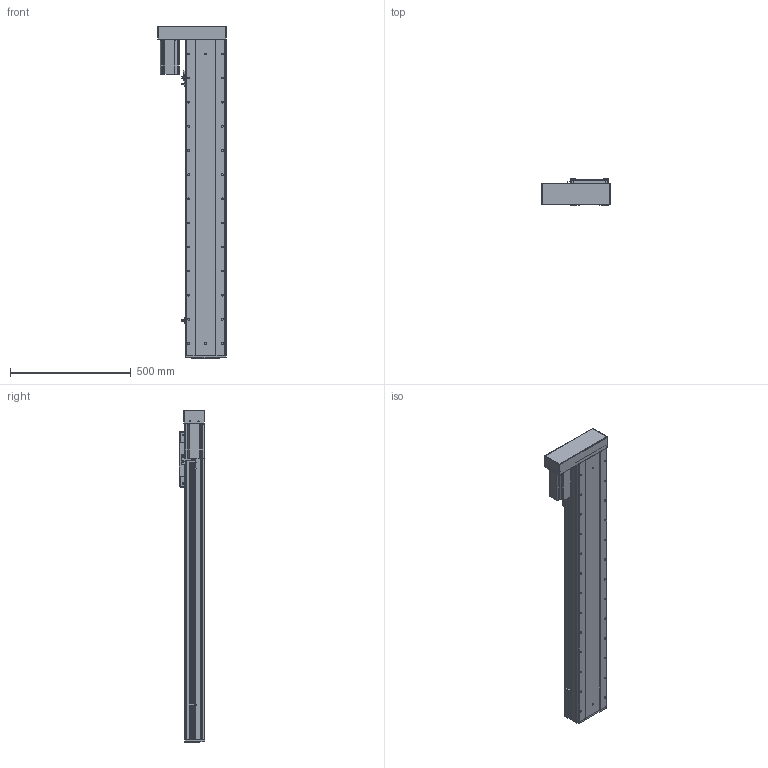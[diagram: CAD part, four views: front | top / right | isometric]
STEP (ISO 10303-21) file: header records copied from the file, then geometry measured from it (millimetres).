
FILE_DESCRIPTION (( 'STEP AP203' ), '1' );
FILE_NAME ('RY170F-L2020-300-LK.SLDASM_1000.step', '2021-03-02T09:00:54', ( '盈信电脑' ), ( '东莞市道滘镇水果街19号' ), 'SwSTEP 2.0', 'SolidWorks 2012', '' );
FILE_SCHEMA (( 'CONFIG_CONTROL_DESIGN' ));
Length unit declared in the file: millimetre
Products named in the file (20): RY170F-L2020-300-LK.SLDASM_1000; RY170F-蛌殏萇儂假蚾啣; 怢湛750W萇儂ㄗ80遺ㄘ; RY170F酘衵殏萇儂欶; RY170F-酘衵殏萇儂釱; 侐源滅袉蝶; 滅袉蝶18-24; RY170F-詩湍揤踡輸; RY170F-揤踡謫假蚾粣; 覜茼ん672; RY170F俋离覜茼え; RY170F-綴裔啣; RY100F-詩湍揤踡謫; 滅袉蝶18-10; RY170F-300眻蟀倰第奻裔啣-LK_1000; RY170F-丝杆铝滑块连接板; RY170F-300眻蟀倰第菁釱-LK_1000; RY170F-300眻蟀祥凄詩湍-LK_1000; RY170F-佪裝臏賑輸20蹟譫; RY170F-滅鳥奻裔
Assembly tree (24 placements, depth 2):
  RY170F-L2020-300-LK.SLDASM_1000
    RY170F-滅鳥奻裔
    RY170F-300眻蟀祥凄詩湍-LK_1000
    RY170F-300眻蟀倰第菁釱-LK_1000
    RY170F-佪裝臏賑輸20蹟譫
    RY170F-丝杆铝滑块连接板
    RY170F-300眻蟀倰第奻裔啣-LK_1000  x2
    滅袉蝶18-10
    RY100F-詩湍揤踡謫
    RY170F-綴裔啣
    覜茼ん672  x3
    RY170F俋离覜茼え
    RY170F-揤踡謫假蚾粣
    RY170F-詩湍揤踡輸  x2
    滅袉蝶18-24
    侐源滅袉蝶  x2
    RY170F-酘衵殏萇儂釱
    RY170F-蛌殏萇儂假蚾啣
    怢湛750W萇儂ㄗ80遺ㄘ
    RY170F酘衵殏萇儂欶
Bounding box: 283 x 107 x 1376 mm (x, y, z)
Volume: 7856008.9 mm3; surface area: 2588935.1 mm2
Topology: 24 solids, 24 shells, 1917 faces, 5302 edges, 3346 vertices
Faces by surface type: cylinder 917, plane 760, cone 232, bspline 8
Entity records: 54947 total; most frequent: CARTESIAN_POINT 11006, DIRECTION 8959, ORIENTED_EDGE 8488, EDGE_CURVE 4244, AXIS2_PLACEMENT_3D 3249, VERTEX_POINT 2766, VECTOR 2461, LINE 2461
